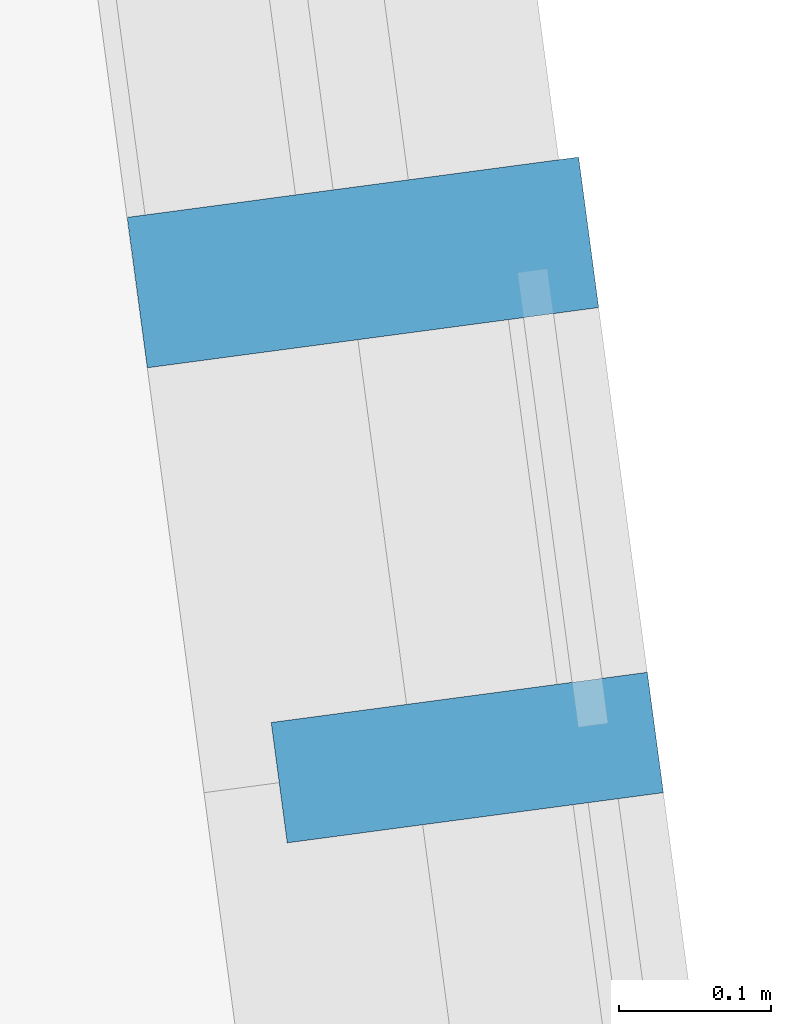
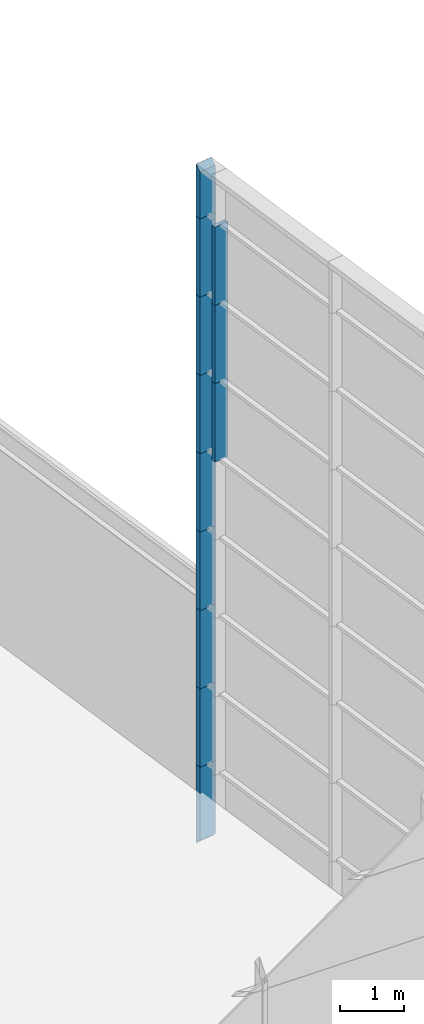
# One storey, part 11 of 27: 12 members, 1 element without a shape of its own.
"""IFC2X3 building model written with IfcOpenShell, lengths in metres."""

from ifc_helpers import new_model, entity, si_unit, converted_unit, money_unit, direction, frame, origin_with_axes, place, context, subcontext, project, spatial, polyline, outline, extrude, clip, halfspace, material, type_object, element, aggregate, save


model = new_model("IFC2X3")

# Units and contexts
model_context = context("Model", 3, precision=1e-05, world=origin_with_axes(), true_north=direction((0.0, 1.0)))
body_context = subcontext(model_context, "Body", "Model", "MODEL_VIEW")
ifc_project = project(units=[si_unit("LENGTHUNIT", "METRE"), si_unit("AREAUNIT", "SQUARE_METRE"), si_unit("VOLUMEUNIT", "CUBIC_METRE"), converted_unit("PLANEANGLEUNIT", "DEGREE", entity("IfcPlaneAngleMeasure", 0.0174532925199), si_unit("PLANEANGLEUNIT", "RADIAN"), dimensions=[0, 0, 0, 0, 0, 0, 0]), si_unit("SOLIDANGLEUNIT", "STERADIAN"), money_unit("EUR"), converted_unit("TIMEUNIT", "Year", entity("IfcTimeMeasure", 31556926.0), si_unit("TIMEUNIT", "SECOND"), dimensions=[0, 0, 0, 0, 0, 0, 0]), si_unit("MASSUNIT", "GRAM"), si_unit("THERMODYNAMICTEMPERATUREUNIT", "DEGREE_CELSIUS"), si_unit("LUMINOUSINTENSITYUNIT", "LUMEN")], contexts=[model_context])

# Site, building, storey
site_placement = place(None, origin_with_axes())
site = spatial("IfcSite", under=ifc_project, at=site_placement, Name="Undefined", CompositionType="ELEMENT")
building_placement = place(site_placement, origin_with_axes())
building = spatial("IfcBuilding", under=site, at=building_placement, Name="Undefined", CompositionType="ELEMENT")
storey_placement = place(building_placement, frame((0.0, 0.0, 5.4), z_axis=(0.0, 0.0, 1.0), x_axis=(1.0, 0.0, 0.0)))
storey = spatial("IfcBuildingStorey", under=building, at=storey_placement, Name="R+1", CompositionType="ELEMENT", Elevation=5.4)

# Curtain wall, members
curtain_wall_type = type_object("IfcCurtainWallType", Name="Type de mur-rideau", PredefinedType="NOTDEFINED")
curtain_wall_placement = place(storey_placement, frame((68.4320700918, 1.51988738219, -1.0), z_axis=(0.0, 0.0, 1.0), x_axis=(1.0, 0.0, 0.0)))
curtain_wall = element("IfcCurtainWall", 1, at=curtain_wall_placement, inside=storey, type_object=curtain_wall_type, Name="CurtainWall_01", ObjectType="CURTAIN WALL")
ifc_material = material(Name="25 % 359672764")
member_type_1 = type_object("IfcMemberType", Name="Cadre 100 x 300", PredefinedType="NOTDEFINED")
member_1_placement = place(curtain_wall_placement, frame((-1.04249620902, 7.81317673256, 7.5), z_axis=(0.0, 0.0, 1.0), x_axis=(0.132255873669, -0.991215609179, 0.0)))
member_1 = element("IfcMember", 2, at=member_1_placement, type_object=member_type_1, material=ifc_material, Name="Frame-Bnd-824", context=body_context, shape_type="SweptSolid", body=[
    extrude(outline(polyline([(-0.234578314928, -0.132185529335), (0.0627863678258, -0.0925087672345), (0.0495607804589, 0.00661279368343), (-0.247803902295, -0.0330639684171), (-0.234578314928, -0.132185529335)])), frame((0.0, 0.0, 0.0), z_axis=(0.0, 0.0, 1.0), x_axis=(0.132255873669, 0.991215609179, 0.0)), (0.0, 0.0, 1.0), 1.5),
])
member_2_placement = place(curtain_wall_placement, frame((-1.04249620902, 7.81317673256, 1.5), z_axis=(0.0, 0.0, 1.0), x_axis=(0.132255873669, -0.991215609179, 0.0)))
member_2 = element("IfcMember", 3, at=member_2_placement, type_object=member_type_1, material=ifc_material, Name="Frame-Bnd-828", context=body_context, shape_type="SweptSolid", body=[
    extrude(outline(polyline([(-0.234578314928, -0.132185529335), (0.0627863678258, -0.0925087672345), (0.0495607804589, 0.00661279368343), (-0.247803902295, -0.0330639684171), (-0.234578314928, -0.132185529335)])), frame((0.0, 0.0, 0.0), z_axis=(0.0, 0.0, 1.0), x_axis=(0.132255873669, 0.991215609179, 0.0)), (0.0, 0.0, 1.0), 1.5),
])
member_3_placement = place(curtain_wall_placement, frame((-1.04249620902, 7.81317673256, 4.5), z_axis=(0.0, 0.0, 1.0), x_axis=(0.132255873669, -0.991215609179, 0.0)))
member_3 = element("IfcMember", 4, at=member_3_placement, type_object=member_type_1, material=ifc_material, Name="Frame-Bnd-826", context=body_context, shape_type="SweptSolid", body=[
    extrude(outline(polyline([(-0.234578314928, -0.132185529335), (0.0627863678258, -0.0925087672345), (0.0495607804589, 0.00661279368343), (-0.247803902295, -0.0330639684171), (-0.234578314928, -0.132185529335)])), frame((0.0, 0.0, 0.0), z_axis=(0.0, 0.0, 1.0), x_axis=(0.132255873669, 0.991215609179, 0.0)), (0.0, 0.0, 1.0), 1.5),
])
member_4_placement = place(curtain_wall_placement, frame((-1.04249620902, 7.81317673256, 10.5), z_axis=(0.0, 0.0, 1.0), x_axis=(0.132255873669, -0.991215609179, 0.0)))
member_4 = element("IfcMember", 5, at=member_4_placement, type_object=member_type_1, material=ifc_material, Name="Frame-Bnd-822", context=body_context, shape_type="SweptSolid", body=[
    extrude(outline(polyline([(-0.234578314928, -0.132185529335), (0.0627863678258, -0.0925087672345), (0.0495607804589, 0.00661279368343), (-0.247803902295, -0.0330639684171), (-0.234578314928, -0.132185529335)])), frame((0.0, 0.0, 0.0), z_axis=(0.0, 0.0, 1.0), x_axis=(0.132255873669, 0.991215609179, 0.0)), (0.0, 0.0, 1.0), 1.5),
])
member_5_placement = place(curtain_wall_placement, frame((-1.04249620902, 7.81317673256, 6.0), z_axis=(0.0, 0.0, 1.0), x_axis=(0.132255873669, -0.991215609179, 0.0)))
member_5 = element("IfcMember", 6, at=member_5_placement, type_object=member_type_1, material=ifc_material, Name="Frame-Bnd-825", context=body_context, shape_type="SweptSolid", body=[
    extrude(outline(polyline([(-0.234578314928, -0.132185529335), (0.0627863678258, -0.0925087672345), (0.0495607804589, 0.00661279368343), (-0.247803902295, -0.0330639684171), (-0.234578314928, -0.132185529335)])), frame((0.0, 0.0, 0.0), z_axis=(0.0, 0.0, 1.0), x_axis=(0.132255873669, 0.991215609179, 0.0)), (0.0, 0.0, 1.0), 1.5),
])
member_6_placement = place(curtain_wall_placement, frame((-1.04249620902, 7.81317673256, 0.0), z_axis=(0.0, 0.0, 1.0), x_axis=(0.132255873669, -0.991215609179, 0.0)))
member_6 = element("IfcMember", 7, at=member_6_placement, type_object=member_type_1, material=ifc_material, Name="Frame-Bnd-829", context=body_context, shape_type="Clipping", body=[
    clip(extrude(outline(polyline([(-0.234578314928, -0.132185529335), (0.0627863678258, -0.0925087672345), (0.0495607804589, 0.00661279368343), (-0.247803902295, -0.0330639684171), (-0.234578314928, -0.132185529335)])), frame((0.0, 0.0, 0.0), z_axis=(0.0, 0.0, 1.0), x_axis=(0.132255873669, 0.991215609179, 0.0)), (0.0, 0.0, 1.0), 1.5), halfspace(frame((0.0, 0.0, 0.0), z_axis=(-0.707106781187, 0.0, 0.707106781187), x_axis=(0.0, -1.0, 0.0)), True)),
])
member_7_placement = place(curtain_wall_placement, frame((-1.04249620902, 7.81317673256, 12.0), z_axis=(-1.02952950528e-08, 7.7159956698e-08, 1.0), x_axis=(0.132255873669, -0.991215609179, 7.78437667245e-08)))
member_7 = element("IfcMember", 8, at=member_7_placement, type_object=member_type_1, material=ifc_material, Name="Frame-Bnd-870", context=body_context, shape_type="Clipping", body=[
    clip(extrude(outline(polyline([(-0.234578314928, -0.132185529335), (0.0627863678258, -0.0925087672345), (0.0495607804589, 0.00661279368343), (-0.247803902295, -0.0330639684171), (-0.234578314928, -0.132185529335)])), frame((0.0, 0.0, 0.0), z_axis=(0.0, 0.0, 1.0), x_axis=(0.132255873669, 0.991215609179, -1.02952950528e-08)), (0.0, 0.0, 1.0), 1.00000002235), halfspace(frame((0.500000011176, 0.0, 0.499999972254), z_axis=(-0.707106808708, 0.0, -0.707106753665), x_axis=(0.0, 1.0, 0.0)), True)),
])
member_8_placement = place(curtain_wall_placement, frame((-1.04249620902, 7.81317673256, 9.0), z_axis=(0.0, 0.0, 1.0), x_axis=(0.132255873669, -0.991215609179, 0.0)))
member_8 = element("IfcMember", 9, at=member_8_placement, type_object=member_type_1, material=ifc_material, Name="Frame-Bnd-823", context=body_context, shape_type="SweptSolid", body=[
    extrude(outline(polyline([(-0.234578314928, -0.132185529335), (0.0627863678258, -0.0925087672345), (0.0495607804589, 0.00661279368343), (-0.247803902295, -0.0330639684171), (-0.234578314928, -0.132185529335)])), frame((0.0, 0.0, 0.0), z_axis=(0.0, 0.0, 1.0), x_axis=(0.132255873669, 0.991215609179, 0.0)), (0.0, 0.0, 1.0), 1.5),
])
member_9_placement = place(curtain_wall_placement, frame((-1.04249620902, 7.81317673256, 3.0), z_axis=(0.0, 0.0, 1.0), x_axis=(0.132255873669, -0.991215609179, 0.0)))
member_9 = element("IfcMember", 10, at=member_9_placement, type_object=member_type_1, material=ifc_material, Name="Frame-Bnd-827", context=body_context, shape_type="SweptSolid", body=[
    extrude(outline(polyline([(-0.234578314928, -0.132185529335), (0.0627863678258, -0.0925087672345), (0.0495607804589, 0.00661279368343), (-0.247803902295, -0.0330639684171), (-0.234578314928, -0.132185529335)])), frame((0.0, 0.0, 0.0), z_axis=(0.0, 0.0, 1.0), x_axis=(0.132255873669, 0.991215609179, 0.0)), (0.0, 0.0, 1.0), 1.5),
])
member_type_2 = type_object("IfcMemberType", Name="Montant 80 x 250", PredefinedType="NOTDEFINED")
member_10_placement = place(curtain_wall_placement, frame((-0.991919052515, 7.43411706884, 7.5), z_axis=(0.0, 0.0, 1.0), x_axis=(0.132255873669, -0.991215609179, 0.0)))
member_10 = element("IfcMember", 11, at=member_10_placement, type_object=member_type_2, material=ifc_material, Name="Frame-Mll-291", context=body_context, shape_type="SweptSolid", body=[
    extrude(outline(polyline([(-0.192952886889, -0.0660997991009), (0.0548510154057, -0.0330358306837), (0.0442705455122, 0.0462614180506), (-0.203533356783, 0.0131974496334), (-0.192952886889, -0.0660997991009)])), frame((0.0, 0.0, 0.0), z_axis=(0.0, 0.0, 1.0), x_axis=(0.132255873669, 0.991215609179, 0.0)), (0.0, 0.0, 1.0), 1.5),
])
member_11_placement = place(curtain_wall_placement, frame((-0.991919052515, 7.43411706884, 9.0), z_axis=(0.0, 0.0, 1.0), x_axis=(0.132255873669, -0.991215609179, 0.0)))
member_11 = element("IfcMember", 12, at=member_11_placement, type_object=member_type_2, material=ifc_material, Name="Frame-Mll-291", context=body_context, shape_type="SweptSolid", body=[
    extrude(outline(polyline([(-0.192952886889, -0.0660997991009), (0.0548510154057, -0.0330358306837), (0.0442705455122, 0.0462614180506), (-0.203533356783, 0.0131974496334), (-0.192952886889, -0.0660997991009)])), frame((0.0, 0.0, 0.0), z_axis=(0.0, 0.0, 1.0), x_axis=(0.132255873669, 0.991215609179, 0.0)), (0.0, 0.0, 1.0), 1.5),
])
member_12_placement = place(curtain_wall_placement, frame((-0.991919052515, 7.43411706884, 10.5), z_axis=(0.0, 0.0, 1.0), x_axis=(0.132255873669, -0.991215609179, 0.0)))
member_12 = element("IfcMember", 13, at=member_12_placement, type_object=member_type_2, material=ifc_material, Name="Frame-Mll-291", context=body_context, shape_type="SweptSolid", body=[
    extrude(outline(polyline([(-0.192952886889, -0.0660997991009), (0.0548510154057, -0.0330358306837), (0.0442705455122, 0.0462614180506), (-0.203533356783, 0.0131974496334), (-0.192952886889, -0.0660997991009)])), frame((0.0, 0.0, 0.0), z_axis=(0.0, 0.0, 1.0), x_axis=(0.132255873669, 0.991215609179, 0.0)), (0.0, 0.0, 1.0), 1.5),
])
aggregate(curtain_wall, [member_10, member_11, member_12, member_1, member_2, member_3, member_4, member_5, member_6, member_7, member_8, member_9])

save(model, "model.ifc")
